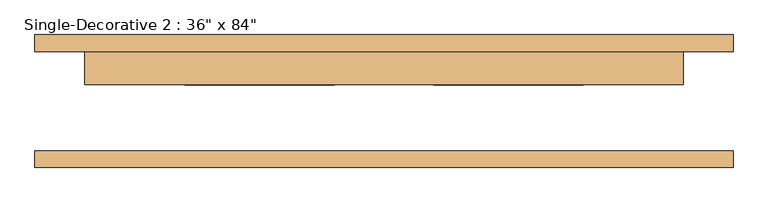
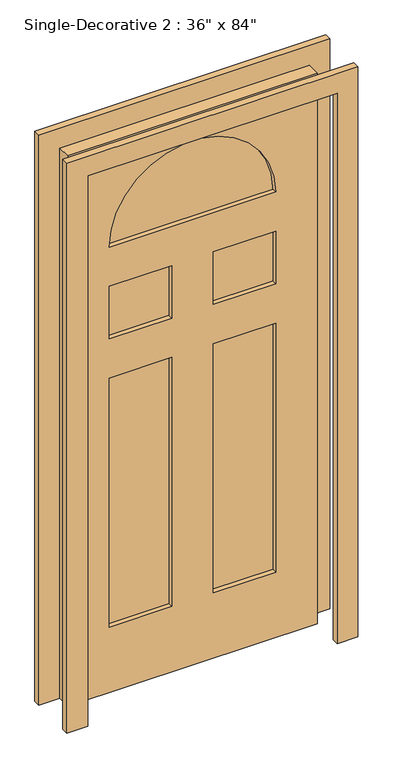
"""IFC4 building model written with IfcOpenShell, lengths in millimetres: door geometry."""

from ifc_helpers import new_model, si_unit, point, frame, frame_2d, origin, place, context, project, spatial, polyline, circle_curve, trimmed, segment, composite_curve, outline, extrude, source, transform, mapped, element, save


def door_7a520c88(model_context):
    return source(origin(), model_context, "Body", "SweptSolid", [
        extrude(outline(polyline([(0.0, -457.2), (0.0, 457.2), (2133.6, 457.2), (2133.6, -457.2), (0.0, -457.2)]), holes=[polyline([(254.0, -76.2), (254.0, -304.8), (1219.2, -304.8), (1219.2, -76.2), (254.0, -76.2)]), polyline([(254.0, 304.8), (254.0, 76.2), (1219.2, 76.2), (1219.2, 304.8), (254.0, 304.8)]), polyline([(1371.6, 76.2), (1574.8, 76.2), (1574.8, 304.8), (1371.6, 304.8), (1371.6, 76.2)]), polyline([(1371.6, -304.8), (1574.8, -304.8), (1574.8, -76.2), (1371.6, -76.2), (1371.6, -304.8)]), composite_curve([segment(polyline([(1727.2, 304.8), (1727.2, -304.8)]), True, "CONTINUOUS"), segment(trimmed(circle_curve(frame_2d((1727.2, 0.0)), 304.8), [point((1727.2, -304.8))], [point((1727.2, 304.8))], True, "CARTESIAN"), True, "CONTINUOUS")], self_intersect=False)]), frame((0.0, 25.4, 0.0), z_axis=(0.0, 1.0, 0.0), x_axis=(0.0, 0.0, 1.0)), (0.0, 0.0, 1.0), 50.8),
        extrude(outline(polyline([(0.0, 457.2), (0.0, 533.4), (2209.8, 533.4), (2209.8, -533.4), (0.0, -533.4), (0.0, -457.2), (2133.6, -457.2), (2133.6, 457.2), (0.0, 457.2)])), frame((0.0, -101.6, 0.0), z_axis=(0.0, 1.0, 0.0), x_axis=(0.0, 0.0, 1.0)), (0.0, 0.0, 1.0), 25.4),
        extrude(outline(polyline([(2209.8, -533.4), (0.0, -533.4), (0.0, -457.2), (2133.6, -457.2), (2133.6, 457.2), (0.0, 457.2), (0.0, 533.4), (2209.8, 533.4), (2209.8, -533.4)])), frame((0.0, 76.2, 0.0), z_axis=(0.0, 1.0, 0.0), x_axis=(0.0, 0.0, 1.0)), (0.0, 0.0, 1.0), 25.4),
        extrude(outline(composite_curve([segment(polyline([(1727.2, -304.8), (1727.2, 304.8)]), True, "CONTINUOUS"), segment(trimmed(circle_curve(frame_2d((1727.2, 0.0)), 304.8), [point((1727.2, 304.8))], [point((1727.2, -304.8))], False, "CARTESIAN"), True, "CONTINUOUS")], self_intersect=False)), frame((0.0, 42.3333333, 0.0), z_axis=(0.0, 1.0, 0.0), x_axis=(0.0, 0.0, 1.0)), (0.0, 0.0, 1.0), 16.9333333),
        extrude(outline(polyline([(-304.8, 59.2666667), (-76.2, 59.2666667), (-76.2, 42.3333333), (-304.8, 42.3333333), (-304.8, 59.2666667)])), frame((0.0, 0.0, 254.0), z_axis=(0.0, 0.0, 1.0), x_axis=(1.0, 0.0, 0.0)), (0.0, 0.0, 1.0), 965.2),
        extrude(outline(polyline([(76.2, 59.2666667), (304.8, 59.2666667), (304.8, 42.3333333), (76.2, 42.3333333), (76.2, 59.2666667)])), frame((0.0, 0.0, 254.0), z_axis=(0.0, 0.0, 1.0), x_axis=(1.0, 0.0, 0.0)), (0.0, 0.0, 1.0), 965.2),
        extrude(outline(polyline([(76.2, 59.2666667), (304.8, 59.2666667), (304.8, 42.3333333), (76.2, 42.3333333), (76.2, 59.2666667)])), frame((0.0, 0.0, 1371.6), z_axis=(0.0, 0.0, 1.0), x_axis=(1.0, 0.0, 0.0)), (0.0, 0.0, 1.0), 203.2),
        extrude(outline(polyline([(-304.8, 59.2666667), (-76.2, 59.2666667), (-76.2, 42.3333333), (-304.8, 42.3333333), (-304.8, 59.2666667)])), frame((0.0, 0.0, 1371.6), z_axis=(0.0, 0.0, 1.0), x_axis=(1.0, 0.0, 0.0)), (0.0, 0.0, 1.0), 203.2),
    ])


if __name__ == "__main__":
    model = new_model("IFC4")
    model_context = context("Model", 3, world=origin())
    ifc_project = project(units=[si_unit("LENGTHUNIT", "METRE", prefix="MILLI")], contexts=[model_context])
    site = spatial("IfcSite", under=ifc_project)
    building = spatial("IfcBuilding", under=site)
    placement = place(None, origin())
    door_shape = door_7a520c88(model_context)
    element("IfcDoor", 1, ObjectType="Single-Decorative 2 : 36\" x 84\"", at=placement, inside=building, context=model_context, shape_type="MappedRepresentation", body=[
        mapped(door_shape, transform((0.0, 0.0, 0.0), x_axis=(1.0, 0.0, 0.0), y_axis=(0.0, 1.0, 0.0), z_axis=(0.0, 0.0, 1.0))),
    ])
    save(model, "model.ifc")
